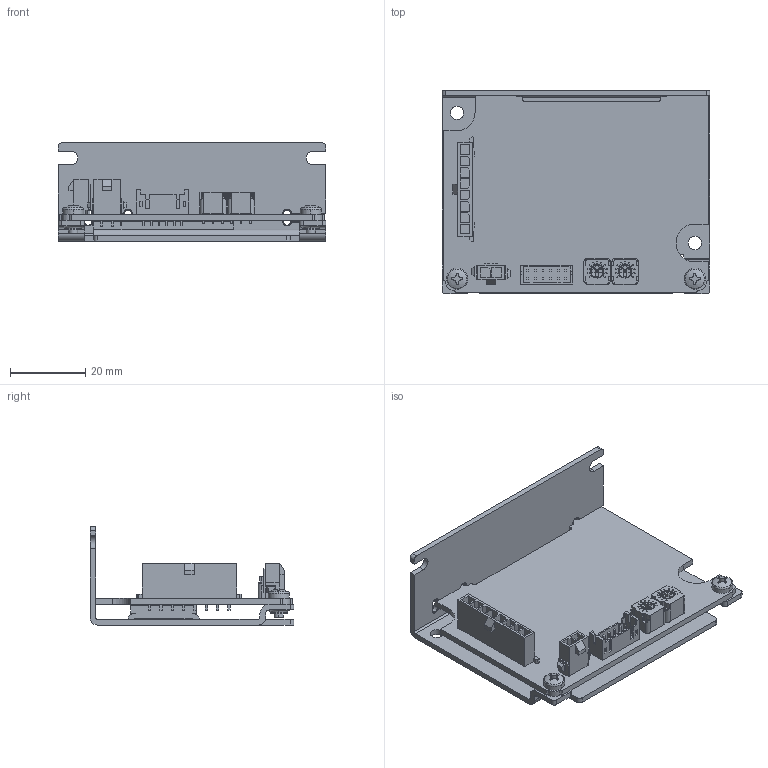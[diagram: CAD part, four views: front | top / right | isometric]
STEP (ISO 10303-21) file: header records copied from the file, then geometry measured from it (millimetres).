
FILE_DESCRIPTION (( 'STEP AP203' ), '1' );
FILE_NAME ('A1678.step', '2018-07-31T02:29:33', ( 'om' ), ( 'Hewlett-Packard Company' ), 'SwSTEP 2.0', 'SolidWorks 2017', '' );
FILE_SCHEMA (( 'CONFIG_CONTROL_DESIGN' ));
Length unit declared in the file: inch
Products named in the file (1): A1678
Bounding box: 71 x 54 x 26 mm (x, y, z)
Volume: 16577.5 mm3; surface area: 22067.1 mm2
Topology: 1 solids, 1 shells, 956 faces, 2573 edges, 1696 vertices
Faces by surface type: plane 700, cylinder 227, cone 15, torus 12, sphere 2
Entity records: 30236 total; most frequent: CARTESIAN_POINT 5613, ORIENTED_EDGE 5146, DIRECTION 5019, EDGE_CURVE 2573, LINE 1939, VECTOR 1939, VERTEX_POINT 1696, AXIS2_PLACEMENT_3D 1540
